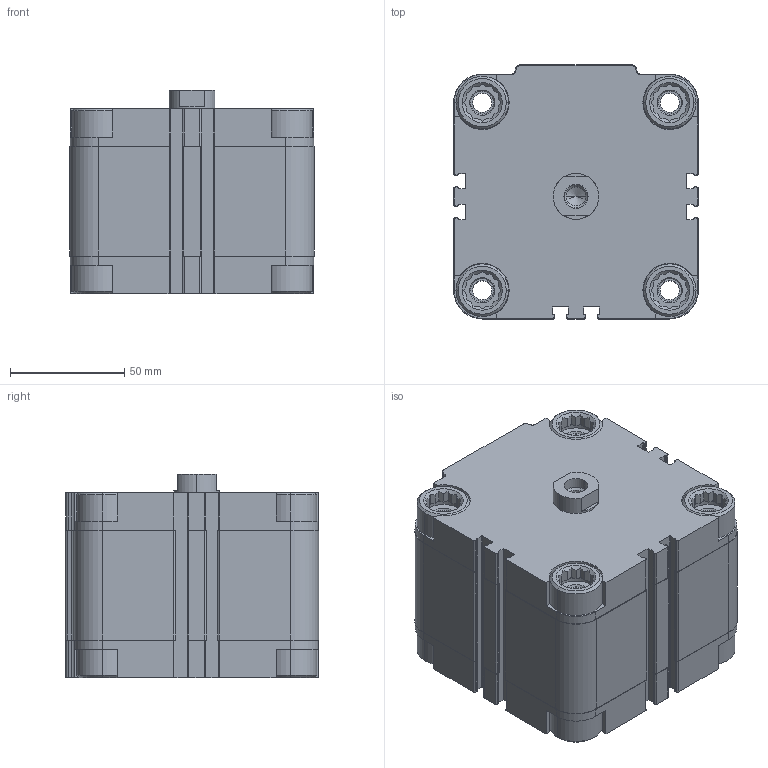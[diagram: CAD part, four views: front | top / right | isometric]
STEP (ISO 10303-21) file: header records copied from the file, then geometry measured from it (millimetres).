
FILE_DESCRIPTION (( 'STEP AP203' ), '1' );
FILE_NAME ('CDVU80-25F.STEP', '2020-03-30T15:03:35', ( '' ), ( '' ), 'SwSTEP 2.0', 'SolidWorks 2019', '' );
FILE_SCHEMA (( 'CONFIG_CONTROL_DESIGN' ));
Length unit declared in the file: millimetre
Products named in the file (1): CDVU80-25F
Bounding box: 107 x 111 x 89 mm (x, y, z)
Volume: 749289.2 mm3; surface area: 119988 mm2
Topology: 2 solids, 2 shells, 657 faces, 1778 edges, 1167 vertices
Faces by surface type: plane 389, cylinder 206, cone 62
Entity records: 20873 total; most frequent: CARTESIAN_POINT 4173, ORIENTED_EDGE 3544, DIRECTION 3384, EDGE_CURVE 1772, VERTEX_POINT 1167, AXIS2_PLACEMENT_3D 1146, LINE 1092, VECTOR 1092
